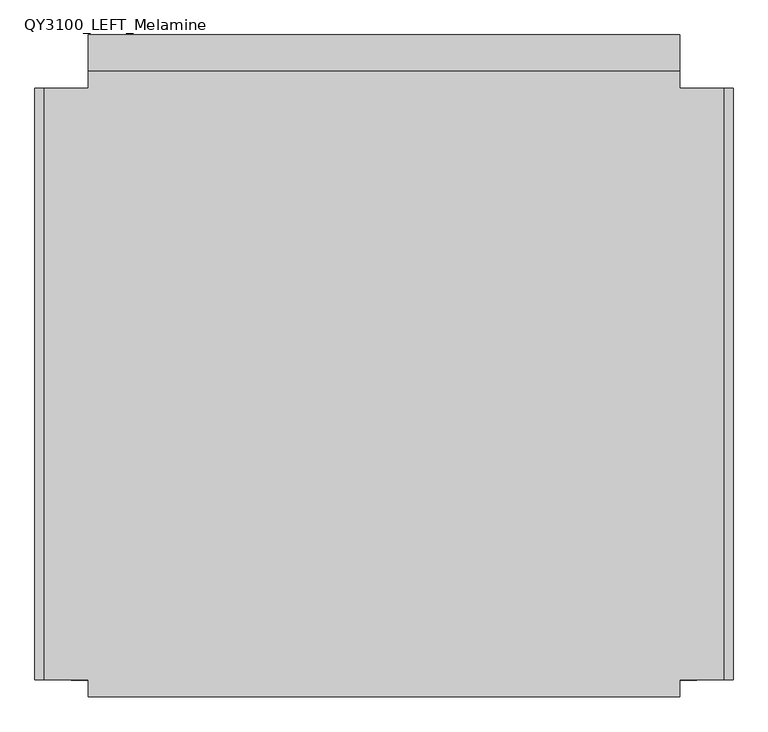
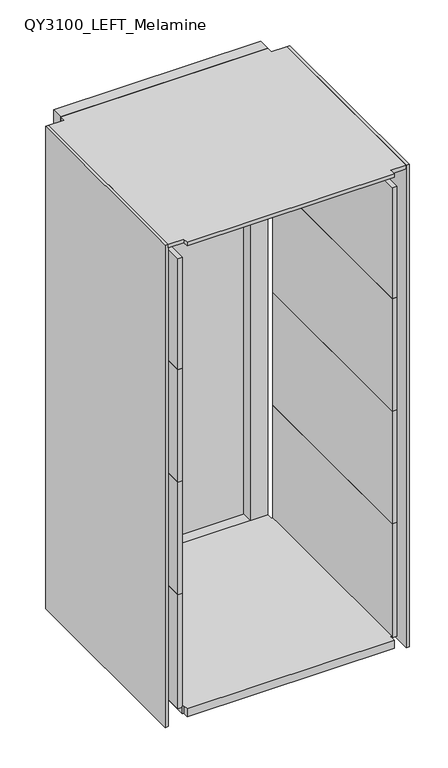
"""IFC4 building model written with IfcOpenShell, lengths in millimetres: furniture geometry, Qyos_100 : QY3100_LEFT_Melamine."""

from ifc_helpers import new_model, si_unit, point, frame, frame_2d, origin, origin_with_axes, place, context, project, spatial, polyline, circle_curve, ellipse_curve, trimmed, segment, composite_curve, outline, extrude, source, transform, mapped, element, save
from ifc_brep_helpers import plane_surface, revolved_surface, advanced_brep


def qy3100_left_melamine_8349982f(model_context):
    return source(origin(), model_context, "Body", "SolidModel", [
        advanced_brep(
        [(-389.0102872, 400.0, 7.0), (-366.9897128, 400.0, 7.0), (-378.0, 400.0, 7.0), (-390.853369, 400.0, 8.8430818), (-365.146631, 400.0, 8.8430818), (-393.1395917, 400.0, 37.8922955), (-362.8604083, 400.0, 37.8922955), (-397.5075531, 400.0, 42.2602568), (-358.4924469, 400.0, 42.2602568), (-378.0, 400.0, 42.2602568)],
        [
            (0, 1, circle_curve(frame((-378.0, 400.0, 7.0), z_axis=(0.0, 0.0, -1.0), x_axis=(1.0, 0.0, 0.0)), 11.0102872)),
            (1, 2),
            (2, 0),
            (1, 0, circle_curve(frame((-378.0, 400.0, 7.0), z_axis=(0.0, 0.0, -1.0), x_axis=(1.0, 0.0, 0.0)), 11.0102872)),
            (3, 4, circle_curve(frame((-378.0, 400.0, 8.8430818), z_axis=(0.0, 0.0, -1.0), x_axis=(1.0, 0.0, 0.0)), 12.853369)),
            (4, 1, circle_curve(frame((-366.9897128, 400.0, 8.8430818), z_axis=(0.0, 1.0, 0.0), x_axis=(1.0, 0.0, 0.0)), 1.8430818)),
            (0, 3, circle_curve(frame((-389.0102872, 400.0, 8.8430818), z_axis=(0.0, 1.0, 0.0), x_axis=(-1.0, 0.0, 0.0)), 1.8430818)),
            (4, 3, circle_curve(frame((-378.0, 400.0, 8.8430818), z_axis=(0.0, 0.0, -1.0), x_axis=(1.0, 0.0, 0.0)), 12.853369)),
            (5, 6, circle_curve(frame((-378.0, 400.0, 37.8922955), z_axis=(0.0, 0.0, -1.0), x_axis=(1.0, 0.0, 0.0)), 15.1395917)),
            (6, 4),
            (3, 5),
            (6, 5, circle_curve(frame((-378.0, 400.0, 37.8922955), z_axis=(0.0, 0.0, -1.0), x_axis=(1.0, 0.0, 0.0)), 15.1395917)),
            (7, 8, circle_curve(frame((-378.0, 400.0, 42.2602568), z_axis=(0.0, 0.0, -1.0), x_axis=(1.0, 0.0, 0.0)), 19.5075531)),
            (8, 6, circle_curve(frame((-358.4924469, 400.0, 37.8922955), z_axis=(0.0, -1.0, 0.0), x_axis=(1.0, 0.0, 0.0)), 4.3679613)),
            (5, 7, circle_curve(frame((-397.5075531, 400.0, 37.8922955), z_axis=(0.0, -1.0, 0.0), x_axis=(-1.0, 0.0, 0.0)), 4.3679613)),
            (8, 7, circle_curve(frame((-378.0, 400.0, 42.2602568), z_axis=(0.0, 0.0, -1.0), x_axis=(1.0, 0.0, 0.0)), 19.5075531)),
            (9, 8),
            (7, 9),
        ],
        [
            plane_surface(frame((-378.0, 400.0, 7.0), z_axis=(0.0, 0.0, -1.0), x_axis=(1.0, 0.0, 0.0))),
            revolved_surface(trimmed(ellipse_curve(frame((-366.9897128, 400.0, 8.8430818), z_axis=(0.0, -1.0, 0.0), x_axis=(1.0, 0.0, 0.0)), 1.8430818, 1.8430818), [point((-366.9897128, 400.0, 7.0))], [point((-365.146631, 400.0, 8.8430818))], True, "CARTESIAN"), (-378.0, 400.0, 1997.4144888), (0.0, 0.0, 1.0)),
            revolved_surface(polyline([(-365.146631, 400.0, 8.8430818), (-362.8604083, 400.0, 37.8922955)]), (-378.0, 400.0, 1997.4144888), (0.0, 0.0, 1.0)),
            revolved_surface(trimmed(ellipse_curve(frame((-358.4924469, 400.0, 37.8922955), z_axis=(0.0, 1.0, 0.0), x_axis=(1.0, 0.0, 0.0)), 4.3679613, 4.3679613), [point((-362.8604083, 400.0, 37.8922955))], [point((-358.4924469, 400.0, 42.2602568))], True, "CARTESIAN"), (-378.0, 400.0, 1997.4144888), (0.0, 0.0, 1.0)),
            plane_surface(frame((-378.0, 400.0, 42.2602568), z_axis=(0.0, 0.0, 1.0), x_axis=(1.0, 0.0, 0.0))),
        ],
        [
            (0, [[1, 2, 3]]),
            (0, [[4, -3, -2]]),
            (1, [[5, 6, -1, 7]]),
            (1, [[8, -7, -4, -6]]),
            (2, [[9, 10, -5, 11]]),
            (2, [[12, -11, -8, -10]]),
            (3, [[13, 14, -9, 15]]),
            (3, [[16, -15, -12, -14]]),
            (4, [[17, -13, 18]]),
            (4, [[-18, -16, -17]]),
        ],
    ),
        extrude(outline(composite_curve([segment(trimmed(circle_curve(frame_2d((-378.0, 400.0)), 23.1414644), [point((-401.1414644, 400.0))], [point((-354.8585356, 400.0))], False, "CARTESIAN"), True, "CONTINUOUS"), segment(trimmed(circle_curve(frame_2d((-378.0, 400.0)), 23.1414644), [point((-354.8585356, 400.0))], [point((-401.1414644, 400.0))], False, "CARTESIAN"), True, "CONTINUOUS")], self_intersect=False)), origin_with_axes(), (0.0, 0.0, 1.0), 7.0),
        extrude(outline(composite_curve([segment(trimmed(circle_curve(frame_2d((-336.5, 432.5)), 10.0), [point((-336.5, 442.5))], [point((-326.5, 432.5))], False, "CARTESIAN"), True, "CONTINUOUS"), segment(polyline([(-326.5, 432.5), (-326.5, 367.5)]), True, "CONTINUOUS"), segment(trimmed(circle_curve(frame_2d((-336.5, 367.5)), 10.0), [point((-326.5, 367.5))], [point((-336.5, 357.5))], False, "CARTESIAN"), True, "CONTINUOUS"), segment(polyline([(-336.5, 357.5), (-419.5, 357.5)]), True, "CONTINUOUS"), segment(trimmed(circle_curve(frame_2d((-419.5, 367.5)), 10.0), [point((-419.5, 357.5))], [point((-429.5, 367.5))], False, "CARTESIAN"), True, "CONTINUOUS"), segment(polyline([(-429.5, 367.5), (-429.5, 432.5)]), True, "CONTINUOUS"), segment(trimmed(circle_curve(frame_2d((-419.5, 432.5)), 10.0), [point((-429.5, 432.5))], [point((-419.5, 442.5))], False, "CARTESIAN"), True, "CONTINUOUS"), segment(polyline([(-419.5, 442.5), (-336.5, 442.5)]), True, "CONTINUOUS")], self_intersect=False)), frame((0.0, 0.0, 42.2602568), z_axis=(0.0, 0.0, 1.0), x_axis=(1.0, 0.0, 0.0)), (0.0, 0.0, 1.0), 4.7397432),
        extrude(outline(composite_curve([segment(trimmed(circle_curve(frame_2d((320.0, 17.6301284)), 17.6301284), [point((302.3698716, 17.6301284))], [point((337.6301284, 17.6301284))], False, "CARTESIAN"), True, "CONTINUOUS"), segment(trimmed(circle_curve(frame_2d((320.0, 17.6301284)), 17.6301284), [point((337.6301284, 17.6301284))], [point((302.3698716, 17.6301284))], False, "CARTESIAN"), True, "CONTINUOUS")], self_intersect=False)), frame((-418.4669948, 0.0, 0.0), z_axis=(1.0, 0.0, 0.0), x_axis=(0.0, 1.0, 0.0)), (0.0, 0.0, 1.0), 26.9339897),
        extrude(outline(composite_curve([segment(trimmed(circle_curve(frame_2d((-405.0, 320.0)), 20.0), [point((-425.0, 320.0))], [point((-385.0, 320.0))], False, "CARTESIAN"), True, "CONTINUOUS"), segment(trimmed(circle_curve(frame_2d((-405.0, 320.0)), 20.0), [point((-385.0, 320.0))], [point((-425.0, 320.0))], False, "CARTESIAN"), True, "CONTINUOUS")], self_intersect=False)), frame((0.0, 0.0, 35.2602568), z_axis=(0.0, 0.0, 1.0), x_axis=(1.0, 0.0, 0.0)), (0.0, 0.0, 1.0), 7.0),
        extrude(outline(polyline([(-435.0, 290.0), (-435.0, 350.0), (-375.0, 350.0), (-375.0, 290.0), (-435.0, 290.0)])), frame((0.0, 0.0, 42.2602568), z_axis=(0.0, 0.0, 1.0), x_axis=(1.0, 0.0, 0.0)), (0.0, 0.0, 1.0), 4.7397432),
        extrude(outline(polyline([(445.0, 470.0), (445.0, 445.0), (511.0, 445.0), (511.0, -445.0), (445.0, -445.0), (445.0, -469.9956819), (-445.0, -469.9956819), (-445.0, -445.0), (-511.0, -445.0), (-511.0, 445.0), (-445.0, 445.0), (-445.0, 470.0), (445.0, 470.0)])), frame((0.0, 0.0, 2186.1), z_axis=(0.0, 0.0, 1.0), x_axis=(1.0, 0.0, 0.0)), (0.0, 0.0, 1.0), 16.0),
        extrude(outline(polyline([(-451.0, 445.0), (-445.0, 445.0), (-445.0, 470.0), (445.0, 470.0), (445.0, 445.0), (451.0, 445.0), (451.0, -445.0), (445.0, -445.0), (445.0, -469.9956819), (-445.0, -469.9956819), (-445.0, -445.0), (-451.0, -445.0), (-451.0, 445.0)])), frame((0.0, 0.0, 47.0), z_axis=(0.0, 0.0, 1.0), x_axis=(1.0, 0.0, 0.0)), (0.0, 0.0, 1.0), 35.0),
        extrude(outline(polyline([(369.5, 520.0), (-369.5, 520.0), (-369.5, 525.0), (369.5, 525.0), (369.5, 520.0)])), frame((0.0, 0.0, 82.0), z_axis=(0.0, 0.0, 1.0), x_axis=(1.0, 0.0, 0.0)), (0.0, 0.0, 1.0), 2040.1),
        extrude(outline(polyline([(10.0, -445.0), (10.0, 445.0), (2202.1, 445.0), (2202.1, -445.0), (10.0, -445.0)]), holes=[polyline([(82.0, 369.5), (82.0, -369.5), (2122.1, -369.5), (2122.1, 369.5), (82.0, 369.5)])]), frame((0.0, 470.0, 0.0), z_axis=(0.0, 1.0, 0.0), x_axis=(0.0, 0.0, 1.0)), (0.0, 0.0, 1.0), 55.0),
        extrude(outline(polyline([(470.0, -444.9498873), (451.0, -444.9498873), (451.0, 445.0024364), (470.0, 445.0024364), (470.0, -444.9498873)])), frame((0.0, 0.0, 1617.9823403), z_axis=(0.0, 0.0, 1.0), x_axis=(1.0, 0.0, 0.0)), (0.0, 0.0, 1.0), 504.1176597),
        extrude(outline(polyline([(-470.0, -445.0), (-470.0, 445.0), (-451.0, 445.0), (-451.0, -445.0), (-470.0, -445.0)])), frame((0.0, 0.0, 1617.9823403), z_axis=(0.0, 0.0, 1.0), x_axis=(1.0, 0.0, 0.0)), (0.0, 0.0, 1.0), 504.1176597),
        extrude(outline(polyline([(470.0, -445.0), (451.0, -445.0), (451.0, 445.0), (470.0, 445.0), (470.0, -445.0)])), frame((0.0, 0.0, 1106.0116287), z_axis=(0.0, 0.0, 1.0), x_axis=(1.0, 0.0, 0.0)), (0.0, 0.0, 1.0), 511.9707116),
        extrude(outline(polyline([(-470.0, -445.0), (-470.0, 445.0), (-451.0, 445.0), (-451.0, -445.0), (-470.0, -445.0)])), frame((0.0, 0.0, 1106.0116287), z_axis=(0.0, 0.0, 1.0), x_axis=(1.0, 0.0, 0.0)), (0.0, 0.0, 1.0), 511.9707116),
        extrude(outline(polyline([(470.0, -445.0), (451.0, -445.0), (451.0, 445.0), (470.0, 445.0), (470.0, -445.0)])), frame((0.0, 0.0, 593.9823403), z_axis=(0.0, 0.0, 1.0), x_axis=(1.0, 0.0, 0.0)), (0.0, 0.0, 1.0), 512.0292884),
        extrude(outline(polyline([(-470.0, -445.0), (-470.0, 445.0), (-451.0, 445.0), (-451.0, -445.0), (-470.0, -445.0)])), frame((0.0, 0.0, 593.9823403), z_axis=(0.0, 0.0, 1.0), x_axis=(1.0, 0.0, 0.0)), (0.0, 0.0, 1.0), 512.0292884),
        extrude(outline(polyline([(470.0, -445.0), (451.0, -445.0), (451.0, 445.0), (470.0, 445.0), (470.0, -445.0)])), frame((0.0, 0.0, 77.0), z_axis=(0.0, 0.0, 1.0), x_axis=(1.0, 0.0, 0.0)), (0.0, 0.0, 1.0), 516.9823403),
        extrude(outline(polyline([(-470.0, -445.0), (-470.0, 445.0), (-451.0, 445.0), (-451.0, -445.0), (-470.0, -445.0)])), frame((0.0, 0.0, 77.0), z_axis=(0.0, 0.0, 1.0), x_axis=(1.0, 0.0, 0.0)), (0.0, 0.0, 1.0), 516.9823403),
        extrude(outline(polyline([(-525.0, -445.0), (-525.0, 445.0), (-511.0, 445.0), (-511.0, -445.0), (-525.0, -445.0)])), frame((0.0, 0.0, 10.0), z_axis=(0.0, 0.0, 1.0), x_axis=(1.0, 0.0, 0.0)), (0.0, 0.0, 1.0), 2192.1),
        extrude(outline(polyline([(525.0, -445.0), (511.0, -445.0), (511.0, 445.0), (525.0, 445.0), (525.0, -445.0)])), frame((0.0, 0.0, 10.0), z_axis=(0.0, 0.0, 1.0), x_axis=(1.0, 0.0, 0.0)), (0.0, 0.0, 1.0), 2192.1),
    ])


if __name__ == "__main__":
    model = new_model("IFC4")
    model_context = context("Model", 3, world=origin())
    ifc_project = project(units=[si_unit("LENGTHUNIT", "METRE", prefix="MILLI")], contexts=[model_context])
    site = spatial("IfcSite", under=ifc_project)
    building = spatial("IfcBuilding", under=site)
    placement = place(None, origin())
    qy3100_left_melamine_shape = qy3100_left_melamine_8349982f(model_context)
    element("IfcFurniture", 1, ObjectType="Qyos_100 : QY3100_LEFT_Melamine", at=placement, inside=building, context=model_context, shape_type="MappedRepresentation", body=[
        mapped(qy3100_left_melamine_shape, transform((0.0, 0.0, 0.0), x_axis=(1.0, 0.0, 0.0), y_axis=(0.0, 1.0, 0.0), z_axis=(0.0, 0.0, 1.0))),
    ])
    save(model, "model.ifc")
